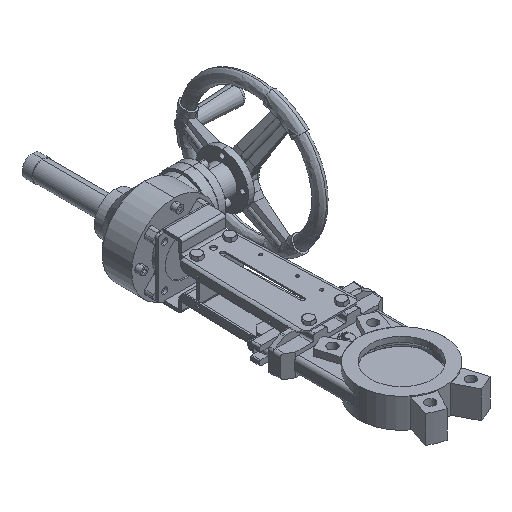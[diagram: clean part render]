
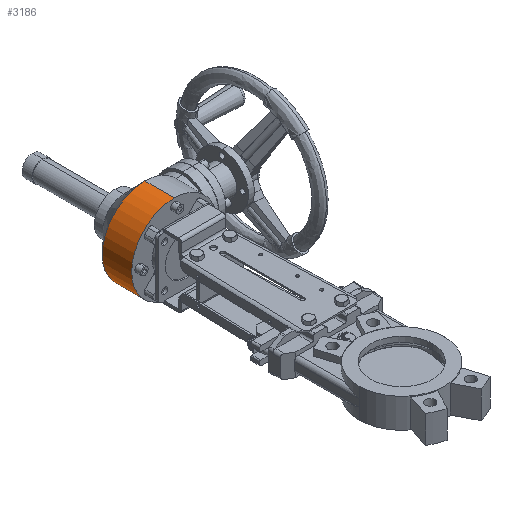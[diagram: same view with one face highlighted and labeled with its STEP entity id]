
A CAD part, isometric view. The second image highlights one B-rep face of the part: STEP entity #3186.
In plain terms, the highlighted cylindrical face has radius 72.5 mm (diameter 145 mm), a partial arc.
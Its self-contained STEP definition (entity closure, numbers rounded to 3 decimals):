
#2936 = EDGE_CURVE ( 'NONE', #33980, #33969, #10819, .T. ) ;
#3171 = ORIENTED_EDGE ( 'NONE', *, *, #33965, .F. ) ;
#3172 = ORIENTED_EDGE ( 'NONE', *, *, #2936, .T. ) ;
#3173 = ORIENTED_EDGE ( 'NONE', *, *, #34038, .T. ) ;
#3179 = EDGE_LOOP ( 'NONE', ( #3171, #3172, #3173, #3196 ) ) ;
#3186 = ADVANCED_FACE ( 'NONE', ( #11376 ), #11374, .T. ) ;
#3196 = ORIENTED_EDGE ( 'NONE', *, *, #34359, .F. ) ;
#10815 = DIRECTION ( 'NONE',  ( 0., 0., 1. ) ) ;
#10816 = DIRECTION ( 'NONE',  ( 0., 1., 0. ) ) ;
#10817 = CARTESIAN_POINT ( 'NONE',  ( 0., 386.5, 0. ) ) ;
#10818 = AXIS2_PLACEMENT_3D ( 'NONE', #10817, #10816, #10815 ) ;
#10819 = CIRCLE ( 'NONE', #10818, 72.5 ) ;
#11371 = DIRECTION ( 'NONE',  ( 0., 1., 0. ) ) ;
#11372 = AXIS2_PLACEMENT_3D ( 'NONE', #11373, #11371, #11437 ) ;
#11373 = CARTESIAN_POINT ( 'NONE',  ( 0., 630.52, 0. ) ) ;
#11374 = CYLINDRICAL_SURFACE ( 'NONE', #11372, 72.5 ) ;
#11376 = FACE_OUTER_BOUND ( 'NONE', #3179, .T. ) ;
#11437 = DIRECTION ( 'NONE',  ( 0., 0., 1. ) ) ;
#32936 = CARTESIAN_POINT ( 'NONE',  ( 0., 386.5, 72.5 ) ) ;
#32945 = DIRECTION ( 'NONE',  ( 0., 1., 0. ) ) ;
#32946 = VECTOR ( 'NONE', #32945, 1000. ) ;
#32947 = CARTESIAN_POINT ( 'NONE',  ( 0., 630.52, -72.5 ) ) ;
#32948 = LINE ( 'NONE', #32947, #32946 ) ;
#32959 = CARTESIAN_POINT ( 'NONE',  ( 0., 436.5, -72.5 ) ) ;
#32990 = CARTESIAN_POINT ( 'NONE',  ( 0., 386.5, -72.5 ) ) ;
#33063 = DIRECTION ( 'NONE',  ( 0., 1., 0. ) ) ;
#33064 = VECTOR ( 'NONE', #33063, 1000. ) ;
#33065 = CARTESIAN_POINT ( 'NONE',  ( 0., 630.52, 72.5 ) ) ;
#33066 = LINE ( 'NONE', #33065, #33064 ) ;
#33068 = CARTESIAN_POINT ( 'NONE',  ( 0., 436.5, 72.5 ) ) ;
#33847 = DIRECTION ( 'NONE',  ( 0., 0., 1. ) ) ;
#33848 = DIRECTION ( 'NONE',  ( 0., 1., 0. ) ) ;
#33849 = CARTESIAN_POINT ( 'NONE',  ( 0., 436.5, 0. ) ) ;
#33850 = AXIS2_PLACEMENT_3D ( 'NONE', #33849, #33848, #33847 ) ;
#33851 = CIRCLE ( 'NONE', #33850, 72.5 ) ;
#33876 = VERTEX_POINT ( 'NONE', #32959 ) ;
#33965 = EDGE_CURVE ( 'NONE', #33980, #33876, #32948, .T. ) ;
#33969 = VERTEX_POINT ( 'NONE', #32936 ) ;
#33980 = VERTEX_POINT ( 'NONE', #32990 ) ;
#34036 = VERTEX_POINT ( 'NONE', #33068 ) ;
#34038 = EDGE_CURVE ( 'NONE', #33969, #34036, #33066, .T. ) ;
#34359 = EDGE_CURVE ( 'NONE', #33876, #34036, #33851, .T. ) ;
